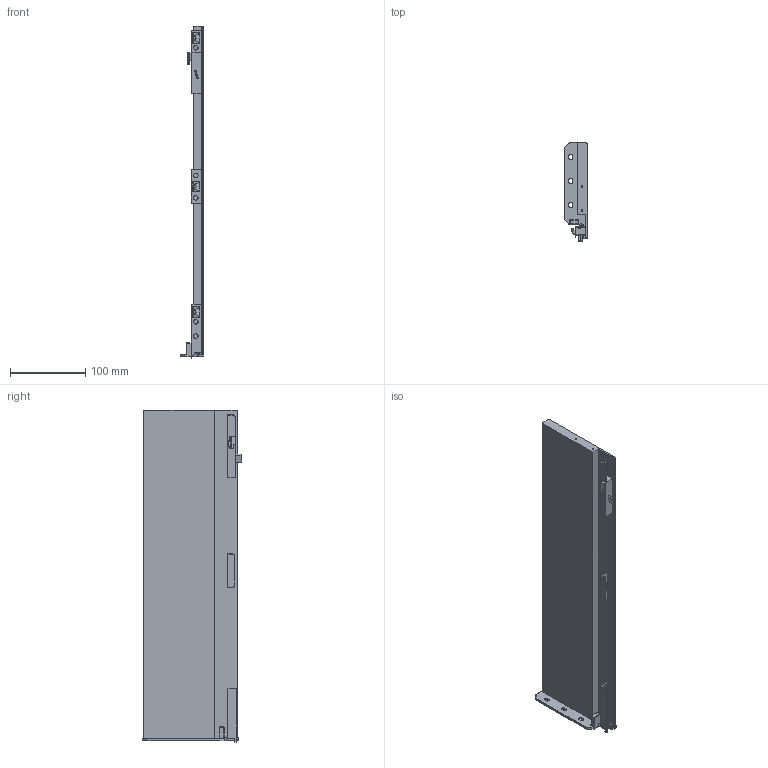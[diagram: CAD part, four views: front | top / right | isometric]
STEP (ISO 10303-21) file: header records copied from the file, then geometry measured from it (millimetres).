
FILE_DESCRIPTION (( 'STEP AP203' ), '1' );
FILE_NAME ('HE124501-R.STEP', '2021-03-30T01:32:52', ( 'Users' ), ( 'Microsoft' ), 'SwSTEP 2.0', 'SolidWorks 2018', '' );
FILE_SCHEMA (( 'CONFIG_CONTROL_DESIGN' ));
Length unit declared in the file: millimetre
Products named in the file (1): HE124501-R
Bounding box: 31 x 131.9 x 442.19 mm (x, y, z)
Volume: 592547.4 mm3; surface area: 137900.5 mm2
Topology: 1 solids, 1 shells, 471 faces, 1167 edges, 696 vertices
Faces by surface type: cylinder 196, plane 166, torus 78, bspline 24, cone 6, sphere 1
Entity records: 14238 total; most frequent: CARTESIAN_POINT 3056, DIRECTION 2413, ORIENTED_EDGE 2314, EDGE_CURVE 1157, AXIS2_PLACEMENT_3D 903, VERTEX_POINT 696, VECTOR 607, LINE 607
